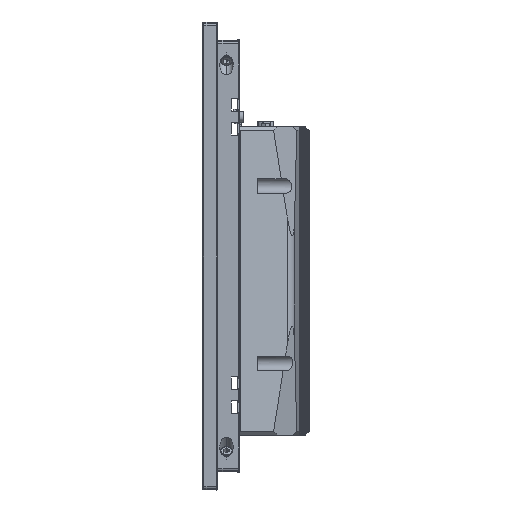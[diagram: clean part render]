
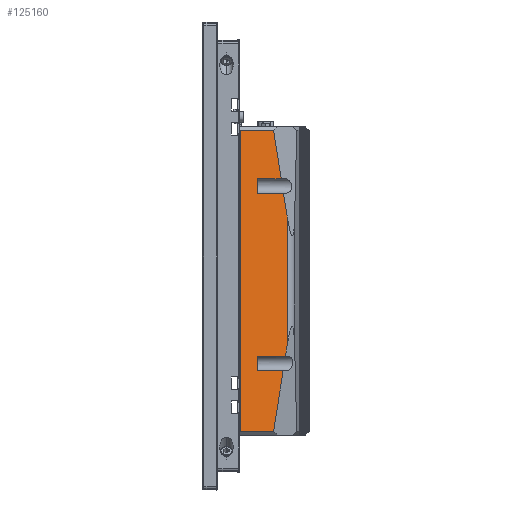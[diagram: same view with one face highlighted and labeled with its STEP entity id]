
A CAD part, left-side view. The second image highlights one B-rep face of the part: STEP entity #125160.
In plain terms, the highlighted planar face has unit normal (-0.949, -0.316, 0).
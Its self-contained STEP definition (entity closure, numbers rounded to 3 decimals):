
#351 = DIRECTION ( 'NONE',  ( 0.316, -0.949, 0. ) ) ;
#2460 = VERTEX_POINT ( 'NONE', #57051 ) ;
#2623 = VECTOR ( 'NONE', #125408, 1000. ) ;
#3295 = ORIENTED_EDGE ( 'NONE', *, *, #93451, .T. ) ;
#3415 = EDGE_CURVE ( 'NONE', #31589, #117031, #75703, .T. ) ;
#5847 = DIRECTION ( 'NONE',  ( 0.052, -0.156, 0.986 ) ) ;
#8758 = EDGE_CURVE ( 'NONE', #64483, #2460, #118201, .T. ) ;
#8957 = DIRECTION ( 'NONE',  ( -0.316, 0.949, 0. ) ) ;
#9922 = CARTESIAN_POINT ( 'NONE',  ( -123., -50., -55.3 ) ) ;
#11984 = AXIS2_PLACEMENT_3D ( 'NONE', #127234, #63889, #351 ) ;
#17854 = LINE ( 'NONE', #27920, #46046 ) ;
#18086 = VERTEX_POINT ( 'NONE', #52470 ) ;
#19095 = ORIENTED_EDGE ( 'NONE', *, *, #36817, .F. ) ;
#19414 = CARTESIAN_POINT ( 'NONE',  ( -124.169, -46.492, 21.486 ) ) ;
#21059 = EDGE_LOOP ( 'NONE', ( #3295, #57813, #133489, #106329, #86570, #86122, #26270, #70678, #54804, #74699, #19095, #98695, #61482, #86052 ) ) ;
#22026 = LINE ( 'NONE', #60066, #31976 ) ;
#22361 = VECTOR ( 'NONE', #49759, 1000. ) ;
#22900 = EDGE_CURVE ( 'NONE', #117031, #2460, #76255, .T. ) ;
#24394 = EDGE_CURVE ( 'NONE', #18086, #114074, #135059, .T. ) ;
#26270 = ORIENTED_EDGE ( 'NONE', *, *, #24394, .F. ) ;
#27171 = VECTOR ( 'NONE', #124795, 1000. ) ;
#27920 = CARTESIAN_POINT ( 'NONE',  ( -132.781, -20.658, -98.7 ) ) ;
#29387 = CARTESIAN_POINT ( 'NONE',  ( -123., -50., 34.7 ) ) ;
#30216 = CARTESIAN_POINT ( 'NONE',  ( -129.667, -30., -55.3 ) ) ;
#31550 = LINE ( 'NONE', #62338, #84662 ) ;
#31589 = VERTEX_POINT ( 'NONE', #97294 ) ;
#31976 = VECTOR ( 'NONE', #134127, 1000. ) ;
#35377 = CARTESIAN_POINT ( 'NONE',  ( -126.795, -38.616, 71.3 ) ) ;
#35488 = VERTEX_POINT ( 'NONE', #134623 ) ;
#36817 = EDGE_CURVE ( 'NONE', #42093, #85047, #86897, .T. ) ;
#42093 = VERTEX_POINT ( 'NONE', #78315 ) ;
#42655 = LINE ( 'NONE', #43956, #67621 ) ;
#43065 = EDGE_CURVE ( 'NONE', #43514, #42093, #78119, .T. ) ;
#43514 = VERTEX_POINT ( 'NONE', #107480 ) ;
#43956 = CARTESIAN_POINT ( 'NONE',  ( -124.169, -46.492, -98.7 ) ) ;
#43957 = EDGE_CURVE ( 'NONE', #53837, #130373, #42655, .T. ) ;
#46046 = VECTOR ( 'NONE', #123800, 1000. ) ;
#46524 = VECTOR ( 'NONE', #98785, 1000. ) ;
#47705 = CARTESIAN_POINT ( 'NONE',  ( -129.667, -30., -63.3 ) ) ;
#47997 = VECTOR ( 'NONE', #5847, 1000. ) ;
#49759 = DIRECTION ( 'NONE',  ( -0.316, 0.949, 0. ) ) ;
#51769 = CARTESIAN_POINT ( 'NONE',  ( -123., -50., -63.3 ) ) ;
#52213 = VECTOR ( 'NONE', #8957, 1000. ) ;
#52470 = CARTESIAN_POINT ( 'NONE',  ( -124.507, -45.478, -55.3 ) ) ;
#52563 = DIRECTION ( 'NONE',  ( -0.316, 0.949, 0. ) ) ;
#53837 = VERTEX_POINT ( 'NONE', #123299 ) ;
#54629 = DIRECTION ( 'NONE',  ( 0., 0., 1. ) ) ;
#54804 = ORIENTED_EDGE ( 'NONE', *, *, #43957, .T. ) ;
#56783 = CARTESIAN_POINT ( 'NONE',  ( -129.667, -30., -98.7 ) ) ;
#57051 = CARTESIAN_POINT ( 'NONE',  ( -124.929, -44.213, -63.3 ) ) ;
#57813 = ORIENTED_EDGE ( 'NONE', *, *, #127388, .T. ) ;
#59043 = LINE ( 'NONE', #114792, #2623 ) ;
#60066 = CARTESIAN_POINT ( 'NONE',  ( -126.795, -38.616, -98.7 ) ) ;
#61482 = ORIENTED_EDGE ( 'NONE', *, *, #92218, .F. ) ;
#62338 = CARTESIAN_POINT ( 'NONE',  ( -133., -20., 69.3 ) ) ;
#63889 = DIRECTION ( 'NONE',  ( -0.949, -0.316, 0. ) ) ;
#64483 = VERTEX_POINT ( 'NONE', #47705 ) ;
#64614 = EDGE_CURVE ( 'NONE', #85047, #130373, #59043, .T. ) ;
#67515 = DIRECTION ( 'NONE',  ( 0., 0., -1. ) ) ;
#67621 = VECTOR ( 'NONE', #54629, 1000. ) ;
#70548 = VECTOR ( 'NONE', #120132, 1000. ) ;
#70678 = ORIENTED_EDGE ( 'NONE', *, *, #81838, .T. ) ;
#72008 = EDGE_CURVE ( 'NONE', #114074, #64483, #134200, .T. ) ;
#73560 = CARTESIAN_POINT ( 'NONE',  ( -123., -50., -96.7 ) ) ;
#74699 = ORIENTED_EDGE ( 'NONE', *, *, #64614, .F. ) ;
#75703 = LINE ( 'NONE', #73560, #128625 ) ;
#76255 = LINE ( 'NONE', #132785, #47997 ) ;
#78119 = LINE ( 'NONE', #88179, #46524 ) ;
#78315 = CARTESIAN_POINT ( 'NONE',  ( -129.667, -30., 34.7 ) ) ;
#80466 = LINE ( 'NONE', #135834, #52213 ) ;
#81838 = EDGE_CURVE ( 'NONE', #18086, #53837, #22026, .T. ) ;
#84662 = VECTOR ( 'NONE', #52563, 1000. ) ;
#84739 = PLANE ( 'NONE',  #11984 ) ;
#85047 = VERTEX_POINT ( 'NONE', #111847 ) ;
#86052 = ORIENTED_EDGE ( 'NONE', *, *, #121141, .F. ) ;
#86122 = ORIENTED_EDGE ( 'NONE', *, *, #72008, .F. ) ;
#86243 = CARTESIAN_POINT ( 'NONE',  ( -126.689, -38.932, -96.7 ) ) ;
#86570 = ORIENTED_EDGE ( 'NONE', *, *, #8758, .F. ) ;
#86897 = LINE ( 'NONE', #29387, #27171 ) ;
#88179 = CARTESIAN_POINT ( 'NONE',  ( -129.667, -30., -98.7 ) ) ;
#90104 = VECTOR ( 'NONE', #136014, 1000. ) ;
#92218 = EDGE_CURVE ( 'NONE', #132852, #43514, #80466, .T. ) ;
#93451 = EDGE_CURVE ( 'NONE', #109371, #35488, #31550, .T. ) ;
#94335 = DIRECTION ( 'NONE',  ( 0.316, -0.949, 0. ) ) ;
#97294 = CARTESIAN_POINT ( 'NONE',  ( -132.781, -20.658, -96.7 ) ) ;
#98623 = LINE ( 'NONE', #35377, #70548 ) ;
#98695 = ORIENTED_EDGE ( 'NONE', *, *, #43065, .F. ) ;
#98785 = DIRECTION ( 'NONE',  ( 0., 0., -1. ) ) ;
#100351 = CARTESIAN_POINT ( 'NONE',  ( -125.287, -43.138, 42.7 ) ) ;
#102714 = VECTOR ( 'NONE', #67515, 1000. ) ;
#106329 = ORIENTED_EDGE ( 'NONE', *, *, #22900, .T. ) ;
#107480 = CARTESIAN_POINT ( 'NONE',  ( -129.667, -30., 42.7 ) ) ;
#109371 = VERTEX_POINT ( 'NONE', #126693 ) ;
#111847 = CARTESIAN_POINT ( 'NONE',  ( -124.866, -44.403, 34.7 ) ) ;
#114074 = VERTEX_POINT ( 'NONE', #30216 ) ;
#114792 = CARTESIAN_POINT ( 'NONE',  ( -126.795, -38.616, 71.3 ) ) ;
#117031 = VERTEX_POINT ( 'NONE', #86243 ) ;
#118201 = LINE ( 'NONE', #51769, #90104 ) ;
#120132 = DIRECTION ( 'NONE',  ( 0.052, -0.156, -0.986 ) ) ;
#121141 = EDGE_CURVE ( 'NONE', #109371, #132852, #98623, .T. ) ;
#123299 = CARTESIAN_POINT ( 'NONE',  ( -124.169, -46.492, -48.886 ) ) ;
#123800 = DIRECTION ( 'NONE',  ( 0., 0., -1. ) ) ;
#124795 = DIRECTION ( 'NONE',  ( 0.316, -0.949, 0. ) ) ;
#125160 = ADVANCED_FACE ( 'NONE', ( #135880 ), #84739, .T. ) ;
#125408 = DIRECTION ( 'NONE',  ( 0.052, -0.156, -0.986 ) ) ;
#126693 = CARTESIAN_POINT ( 'NONE',  ( -126.689, -38.932, 69.3 ) ) ;
#127234 = CARTESIAN_POINT ( 'NONE',  ( -123., -50., -98.7 ) ) ;
#127388 = EDGE_CURVE ( 'NONE', #35488, #31589, #17854, .T. ) ;
#128625 = VECTOR ( 'NONE', #94335, 1000. ) ;
#130373 = VERTEX_POINT ( 'NONE', #19414 ) ;
#132785 = CARTESIAN_POINT ( 'NONE',  ( -126.795, -38.616, -98.7 ) ) ;
#132852 = VERTEX_POINT ( 'NONE', #100351 ) ;
#133489 = ORIENTED_EDGE ( 'NONE', *, *, #3415, .T. ) ;
#134127 = DIRECTION ( 'NONE',  ( 0.052, -0.156, 0.986 ) ) ;
#134200 = LINE ( 'NONE', #56783, #102714 ) ;
#134623 = CARTESIAN_POINT ( 'NONE',  ( -132.781, -20.658, 69.3 ) ) ;
#135059 = LINE ( 'NONE', #9922, #22361 ) ;
#135834 = CARTESIAN_POINT ( 'NONE',  ( -123., -50., 42.7 ) ) ;
#135880 = FACE_OUTER_BOUND ( 'NONE', #21059, .T. ) ;
#136014 = DIRECTION ( 'NONE',  ( 0.316, -0.949, 0. ) ) ;
